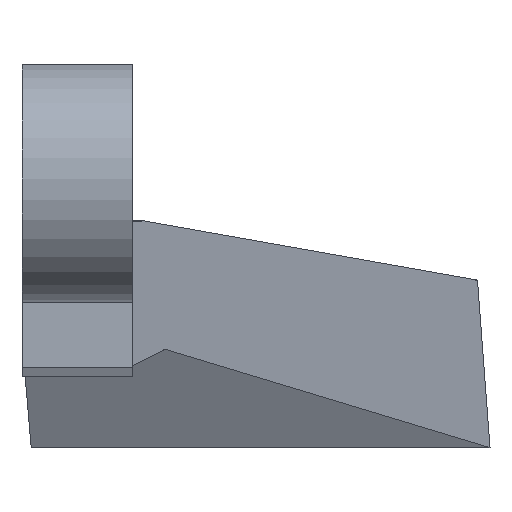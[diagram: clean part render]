
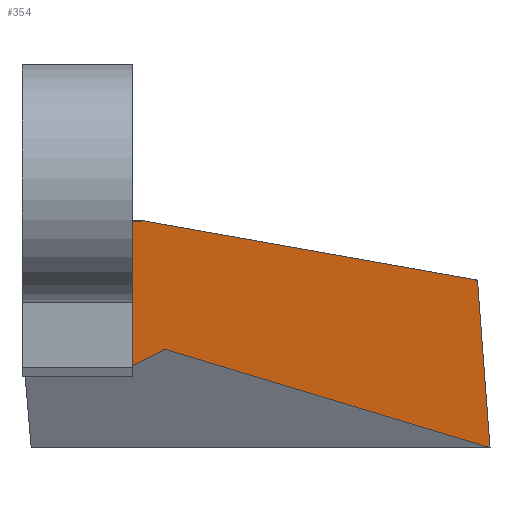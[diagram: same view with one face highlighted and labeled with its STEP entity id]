
A CAD part, top view. The second image highlights one B-rep face of the part: STEP entity #354.
In plain terms, the highlighted planar face has unit normal (0.854, 0, 0.52).
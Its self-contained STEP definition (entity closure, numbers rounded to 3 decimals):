
#32 = PLANE('',#33);
#33 = AXIS2_PLACEMENT_3D('',#34,#35,#36);
#34 = CARTESIAN_POINT('',(-27.,-10.595,-88.));
#35 = DIRECTION('',(0.,-0.994,0.106));
#36 = DIRECTION('',(0.,0.106,0.994));
#55 = VERTEX_POINT('',#56);
#56 = CARTESIAN_POINT('',(23.626,-10.355,
    -85.746));
#69 = PLANE('',#70);
#70 = AXIS2_PLACEMENT_3D('',#71,#72,#73);
#71 = CARTESIAN_POINT('',(-60.,-68.084,-92.834));
#72 = DIRECTION('',(0.,-0.122,0.993));
#73 = DIRECTION('',(1.,0.,0.));
#80 = EDGE_CURVE('',#81,#55,#83,.T.);
#81 = VERTEX_POINT('',#82);
#82 = CARTESIAN_POINT('',(-12.781,-4.,-26.));
#83 = SURFACE_CURVE('',#84,(#88,#94),.PCURVE_S1.);
#84 = LINE('',#85,#86);
#85 = CARTESIAN_POINT('',(16.831,-9.169,
    -74.595));
#86 = VECTOR('',#87,1.);
#87 = DIRECTION('',(0.518,-0.09,-0.85)
  );
#88 = PCURVE('',#32,#89);
#89 = DEFINITIONAL_REPRESENTATION('',(#90),#93);
#90 = B_SPLINE_CURVE_WITH_KNOTS('',1,(#91,#92),.UNSPECIFIED.,.F.,.F.,(2,
    2),(-57.141,15.763),.PIECEWISE_BEZIER_KNOTS.);
#91 = CARTESIAN_POINT('',(62.35,-14.219));
#92 = CARTESIAN_POINT('',(0.,-52.));
#93 = ( GEOMETRIC_REPRESENTATION_CONTEXT(2) 
PARAMETRIC_REPRESENTATION_CONTEXT() REPRESENTATION_CONTEXT('2D SPACE',''
  ) );
#94 = PCURVE('',#95,#100);
#95 = PLANE('',#96);
#96 = AXIS2_PLACEMENT_3D('',#97,#98,#99);
#97 = CARTESIAN_POINT('',(25.,40.,-88.));
#98 = DIRECTION('',(-0.854,-0.,-0.52));
#99 = DIRECTION('',(-0.52,0.,0.854));
#100 = DEFINITIONAL_REPRESENTATION('',(#101),#104);
#101 = B_SPLINE_CURVE_WITH_KNOTS('',1,(#102,#103),.UNSPECIFIED.,.F.,.F.,
  (2,2),(-57.141,15.763),.PIECEWISE_BEZIER_KNOTS.);
#102 = CARTESIAN_POINT('',(72.605,-44.));
#103 = CARTESIAN_POINT('',(0.,-50.595));
#104 = ( GEOMETRIC_REPRESENTATION_CONTEXT(2) 
PARAMETRIC_REPRESENTATION_CONTEXT() REPRESENTATION_CONTEXT('2D SPACE',''
  ) );
#120 = PLANE('',#121);
#121 = AXIS2_PLACEMENT_3D('',#122,#123,#124);
#122 = CARTESIAN_POINT('',(-27.,-4.,-26.));
#123 = DIRECTION('',(0.,-0.998,-0.067));
#124 = DIRECTION('',(0.,-0.067,0.998));
#200 = PLANE('',#201);
#201 = AXIS2_PLACEMENT_3D('',#202,#203,#204);
#202 = CARTESIAN_POINT('',(-27.,-21.,-20.));
#203 = DIRECTION('',(-0.,0.958,0.287));
#204 = DIRECTION('',(0.,0.287,-0.958));
#226 = PLANE('',#227);
#227 = AXIS2_PLACEMENT_3D('',#228,#229,#230);
#228 = CARTESIAN_POINT('',(-27.,-18.,-30.));
#229 = DIRECTION('',(0.,0.984,-0.18));
#230 = DIRECTION('',(0.,-0.18,-0.984));
#261 = EDGE_CURVE('',#262,#81,#264,.T.);
#262 = VERTEX_POINT('',#263);
#263 = CARTESIAN_POINT('',(-14.,-4.133,-24.));
#264 = SURFACE_CURVE('',#265,(#269,#275),.PCURVE_S1.);
#265 = LINE('',#266,#267);
#266 = CARTESIAN_POINT('',(4.779,-2.079,
    -54.817));
#267 = VECTOR('',#268,1.);
#268 = DIRECTION('',(0.52,0.057,-0.853));
#269 = PCURVE('',#120,#270);
#270 = DEFINITIONAL_REPRESENTATION('',(#271),#274);
#271 = B_SPLINE_CURVE_WITH_KNOTS('',1,(#272,#273),.UNSPECIFIED.,.F.,.F.,
  (2,2),(-36.146,-33.8),.PIECEWISE_BEZIER_KNOTS.);
#272 = CARTESIAN_POINT('',(2.004,-13.));
#273 = CARTESIAN_POINT('',(0.,-14.219));
#274 = ( GEOMETRIC_REPRESENTATION_CONTEXT(2) 
PARAMETRIC_REPRESENTATION_CONTEXT() REPRESENTATION_CONTEXT('2D SPACE',''
  ) );
#275 = PCURVE('',#95,#276);
#276 = DEFINITIONAL_REPRESENTATION('',(#277),#280);
#277 = B_SPLINE_CURVE_WITH_KNOTS('',1,(#278,#279),.UNSPECIFIED.,.F.,.F.,
  (2,2),(-36.146,-33.8),.PIECEWISE_BEZIER_KNOTS.);
#278 = CARTESIAN_POINT('',(74.947,-44.133));
#279 = CARTESIAN_POINT('',(72.605,-44.));
#280 = ( GEOMETRIC_REPRESENTATION_CONTEXT(2) 
PARAMETRIC_REPRESENTATION_CONTEXT() REPRESENTATION_CONTEXT('2D SPACE',''
  ) );
#297 = PLANE('',#298);
#298 = AXIS2_PLACEMENT_3D('',#299,#300,#301);
#299 = CARTESIAN_POINT('',(-14.,40.,-24.));
#300 = DIRECTION('',(-1.,0.,0.));
#301 = DIRECTION('',(0.,0.,1.));
#354 = ADVANCED_FACE('',(#355),#95,.F.);
#355 = FACE_BOUND('',#356,.F.);
#356 = EDGE_LOOP('',(#357,#358,#359,#380,#401,#422));
#357 = ORIENTED_EDGE('',*,*,#261,.T.);
#358 = ORIENTED_EDGE('',*,*,#80,.T.);
#359 = ORIENTED_EDGE('',*,*,#360,.F.);
#360 = EDGE_CURVE('',#361,#55,#363,.T.);
#361 = VERTEX_POINT('',#362);
#362 = CARTESIAN_POINT('',(24.991,-28.592,
    -87.985));
#363 = SURFACE_CURVE('',#364,(#368,#374),.PCURVE_S1.);
#364 = LINE('',#365,#366);
#365 = CARTESIAN_POINT('',(23.713,-11.514,
    -85.888));
#366 = VECTOR('',#367,1.);
#367 = DIRECTION('',(-0.074,0.99,0.122)
  );
#368 = PCURVE('',#95,#369);
#369 = DEFINITIONAL_REPRESENTATION('',(#370),#373);
#370 = B_SPLINE_CURVE_WITH_KNOTS('',1,(#371,#372),.UNSPECIFIED.,.F.,.F.,
  (2,2),(-17.256,7.592),.PIECEWISE_BEZIER_KNOTS.);
#371 = CARTESIAN_POINT('',(0.017,-68.595));
#372 = CARTESIAN_POINT('',(3.554,-44.));
#373 = ( GEOMETRIC_REPRESENTATION_CONTEXT(2) 
PARAMETRIC_REPRESENTATION_CONTEXT() REPRESENTATION_CONTEXT('2D SPACE',''
  ) );
#374 = PCURVE('',#69,#375);
#375 = DEFINITIONAL_REPRESENTATION('',(#376),#379);
#376 = B_SPLINE_CURVE_WITH_KNOTS('',1,(#377,#378),.UNSPECIFIED.,.F.,.F.,
  (2,2),(-17.256,7.592),.PIECEWISE_BEZIER_KNOTS.);
#377 = CARTESIAN_POINT('',(84.991,39.785));
#378 = CARTESIAN_POINT('',(83.151,64.565));
#379 = ( GEOMETRIC_REPRESENTATION_CONTEXT(2) 
PARAMETRIC_REPRESENTATION_CONTEXT() REPRESENTATION_CONTEXT('2D SPACE',''
  ) );
#380 = ORIENTED_EDGE('',*,*,#381,.T.);
#381 = EDGE_CURVE('',#361,#382,#384,.T.);
#382 = VERTEX_POINT('',#383);
#383 = CARTESIAN_POINT('',(-10.344,-18.,-30.));
#384 = SURFACE_CURVE('',#385,(#389,#395),.PCURVE_S1.);
#385 = LINE('',#386,#387);
#386 = CARTESIAN_POINT('',(2.409,-21.823,
    -50.927));
#387 = VECTOR('',#388,1.);
#388 = DIRECTION('',(-0.514,0.154,0.844));
#389 = PCURVE('',#95,#390);
#390 = DEFINITIONAL_REPRESENTATION('',(#391),#394);
#391 = B_SPLINE_CURVE_WITH_KNOTS('',1,(#392,#393),.UNSPECIFIED.,.F.,.F.,
  (2,2),(-43.939,24.803),.PIECEWISE_BEZIER_KNOTS.);
#392 = CARTESIAN_POINT('',(0.,-68.595));
#393 = CARTESIAN_POINT('',(67.92,-58.));
#394 = ( GEOMETRIC_REPRESENTATION_CONTEXT(2) 
PARAMETRIC_REPRESENTATION_CONTEXT() REPRESENTATION_CONTEXT('2D SPACE',''
  ) );
#395 = PCURVE('',#226,#396);
#396 = DEFINITIONAL_REPRESENTATION('',(#397),#400);
#397 = B_SPLINE_CURVE_WITH_KNOTS('',1,(#398,#399),.UNSPECIFIED.,.F.,.F.,
  (2,2),(-43.939,24.803),.PIECEWISE_BEZIER_KNOTS.);
#398 = CARTESIAN_POINT('',(58.96,-52.));
#399 = CARTESIAN_POINT('',(0.,-16.656));
#400 = ( GEOMETRIC_REPRESENTATION_CONTEXT(2) 
PARAMETRIC_REPRESENTATION_CONTEXT() REPRESENTATION_CONTEXT('2D SPACE',''
  ) );
#401 = ORIENTED_EDGE('',*,*,#402,.T.);
#402 = EDGE_CURVE('',#382,#403,#405,.T.);
#403 = VERTEX_POINT('',#404);
#404 = CARTESIAN_POINT('',(-14.,-19.8,-24.));
#405 = SURFACE_CURVE('',#406,(#410,#416),.PCURVE_S1.);
#406 = LINE('',#407,#408);
#407 = CARTESIAN_POINT('',(5.479,-10.21,
    -55.965));
#408 = VECTOR('',#409,1.);
#409 = DIRECTION('',(-0.504,-0.248,0.827));
#410 = PCURVE('',#95,#411);
#411 = DEFINITIONAL_REPRESENTATION('',(#412),#415);
#412 = B_SPLINE_CURVE_WITH_KNOTS('',1,(#413,#414),.UNSPECIFIED.,.F.,.F.,
  (2,2),(31.388,38.641),.PIECEWISE_BEZIER_KNOTS.);
#413 = CARTESIAN_POINT('',(67.92,-58.));
#414 = CARTESIAN_POINT('',(74.947,-59.8));
#415 = ( GEOMETRIC_REPRESENTATION_CONTEXT(2) 
PARAMETRIC_REPRESENTATION_CONTEXT() REPRESENTATION_CONTEXT('2D SPACE',''
  ) );
#416 = PCURVE('',#200,#417);
#417 = DEFINITIONAL_REPRESENTATION('',(#418),#421);
#418 = B_SPLINE_CURVE_WITH_KNOTS('',1,(#419,#420),.UNSPECIFIED.,.F.,.F.,
  (2,2),(31.388,38.641),.PIECEWISE_BEZIER_KNOTS.);
#419 = CARTESIAN_POINT('',(10.44,-16.656));
#420 = CARTESIAN_POINT('',(4.176,-13.));
#421 = ( GEOMETRIC_REPRESENTATION_CONTEXT(2) 
PARAMETRIC_REPRESENTATION_CONTEXT() REPRESENTATION_CONTEXT('2D SPACE',''
  ) );
#422 = ORIENTED_EDGE('',*,*,#423,.F.);
#423 = EDGE_CURVE('',#262,#403,#424,.T.);
#424 = SURFACE_CURVE('',#425,(#429,#436),.PCURVE_S1.);
#425 = LINE('',#426,#427);
#426 = CARTESIAN_POINT('',(-14.,40.,-24.));
#427 = VECTOR('',#428,1.);
#428 = DIRECTION('',(0.,-1.,0.));
#429 = PCURVE('',#95,#430);
#430 = DEFINITIONAL_REPRESENTATION('',(#431),#435);
#431 = LINE('',#432,#433);
#432 = CARTESIAN_POINT('',(74.947,0.));
#433 = VECTOR('',#434,1.);
#434 = DIRECTION('',(0.,-1.));
#435 = ( GEOMETRIC_REPRESENTATION_CONTEXT(2) 
PARAMETRIC_REPRESENTATION_CONTEXT() REPRESENTATION_CONTEXT('2D SPACE',''
  ) );
#436 = PCURVE('',#297,#437);
#437 = DEFINITIONAL_REPRESENTATION('',(#438),#442);
#438 = LINE('',#439,#440);
#439 = CARTESIAN_POINT('',(0.,0.));
#440 = VECTOR('',#441,1.);
#441 = DIRECTION('',(0.,-1.));
#442 = ( GEOMETRIC_REPRESENTATION_CONTEXT(2) 
PARAMETRIC_REPRESENTATION_CONTEXT() REPRESENTATION_CONTEXT('2D SPACE',''
  ) );
